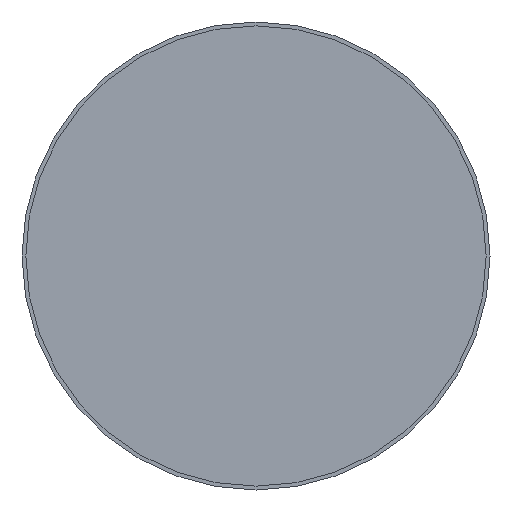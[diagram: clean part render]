
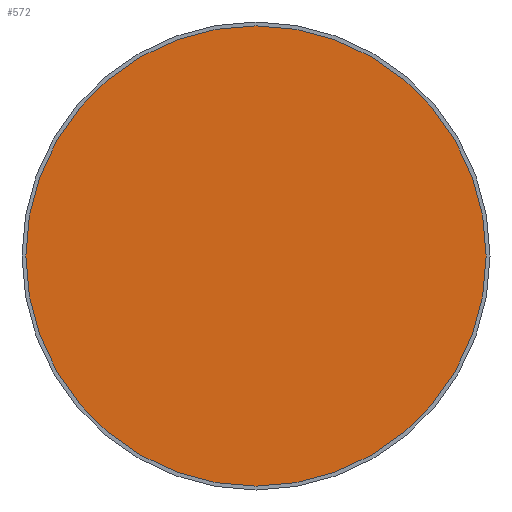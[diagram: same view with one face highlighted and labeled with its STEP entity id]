
A CAD part, front view. The second image highlights one B-rep face of the part: STEP entity #572.
In plain terms, the highlighted planar face has unit normal (0, -1, 0).
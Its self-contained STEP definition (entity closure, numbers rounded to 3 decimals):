
#1=CARTESIAN_POINT('',(0.,0.,0.));
#2=DIRECTION('',(0.,-1.,0.));
#3=DIRECTION('',(1.,0.,0.));
#4=AXIS2_PLACEMENT_3D('',#1,#2,#3);
#14=CARTESIAN_POINT('',(0.,0.,0.));
#15=DIRECTION('',(0.,1.,0.));
#16=DIRECTION('',(1.,0.,0.));
#17=AXIS2_PLACEMENT_3D('',#14,#15,#16);
#433=CARTESIAN_POINT('',(60.,0.,0.));
#435=VERTEX_POINT('',#433);
#447=CARTESIAN_POINT('',(-60.,0.,0.));
#449=VERTEX_POINT('',#447);
#561=CARTESIAN_POINT('',(0.,0.,0.));
#562=DIRECTION('',(0.,-1.,0.));
#563=DIRECTION('',(-1.,0.,0.));
#564=AXIS2_PLACEMENT_3D('',#561,#562,#563);
#565=PLANE('',#564);
#567=ORIENTED_EDGE('',*,*,#566,.F.);
#569=ORIENTED_EDGE('',*,*,#568,.T.);
#570=EDGE_LOOP('',(#567,#569));
#571=FACE_OUTER_BOUND('',#570,.F.);
#572=ADVANCED_FACE('',(#571),#565,.T.);
#5=CIRCLE('',#4,60.);
#18=CIRCLE('',#17,60.);
#566=EDGE_CURVE('',#435,#449,#5,.T.);
#568=EDGE_CURVE('',#435,#449,#18,.T.);
